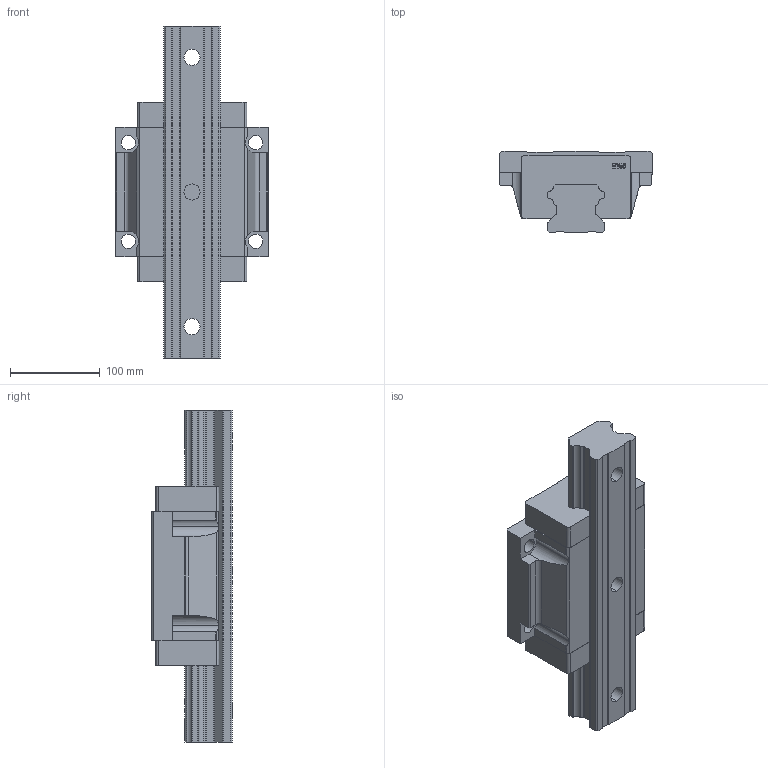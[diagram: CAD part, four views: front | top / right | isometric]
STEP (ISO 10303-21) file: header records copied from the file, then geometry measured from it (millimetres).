
FILE_DESCRIPTION (( 'STEP AP214' ), '1' );
FILE_NAME ('7.1008 Lineaarikelkka HTW65CC.STEP', '2026-03-11T11:06:57', ( '' ), ( '' ), 'SwSTEP 2.0', 'SolidWorks 2025', '' );
FILE_SCHEMA (( 'AUTOMOTIVE_DESIGN' ));
Length unit declared in the file: millimetre
Products named in the file (3): HTR65; 7.1008 Lineaarikelkka HTW65CC; HTW65
Assembly tree (2 placements, depth 2):
  7.1008 Lineaarikelkka HTW65CC
    HTW65
    HTR65
Bounding box: 170 x 90 x 370 mm (x, y, z)
Volume: 2630054.7 mm3; surface area: 232704.7 mm2
Topology: 2 solids, 2 shells, 748 faces, 2110 edges, 1404 vertices
Faces by surface type: plane 668, cylinder 55, bspline 25
Entity records: 34190 total; most frequent: CARTESIAN_POINT 6554, ORIENTED_EDGE 4220, DIRECTION 3610, EDGE_CURVE 2110, VECTOR 1930, LINE 1930, VERTEX_POINT 1404, AXIS2_PLACEMENT_3D 840
